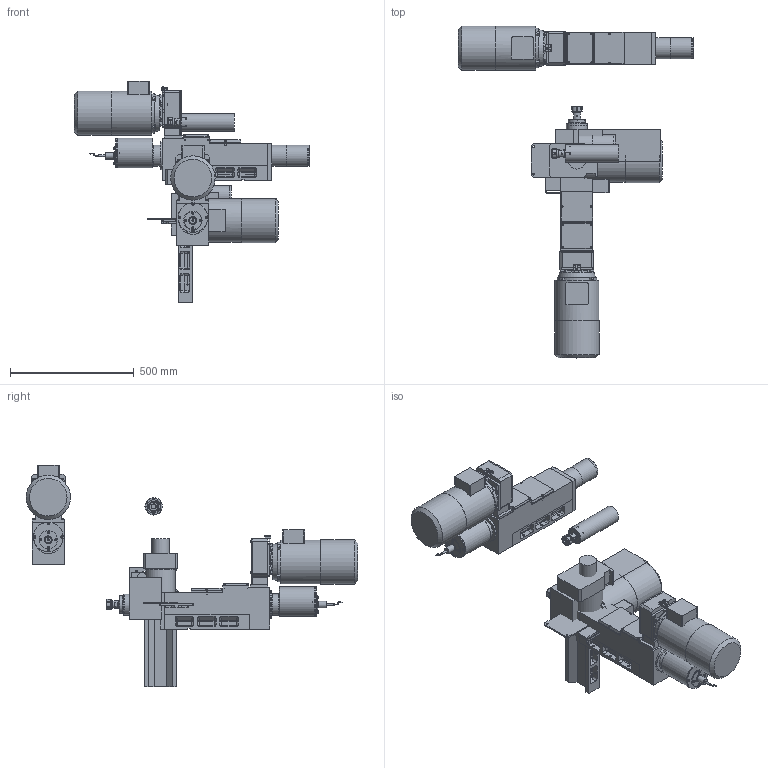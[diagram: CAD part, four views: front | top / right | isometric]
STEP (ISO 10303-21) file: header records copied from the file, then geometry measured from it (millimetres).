
FILE_DESCRIPTION( ( 'STEP AP203' ), '1' );
FILE_NAME( 'C:/Documents and Settings/Saverio/Desktop/disegni ironcad/unità serie 2/MC216 (ex MC220)/MC 216_A02_P.stp', '2014-03-25T10:09:23', ( ' ' ), ( ' ' ), 'XStep 1.0', ' ', ' ' );
FILE_SCHEMA( ( 'CONFIG_CONTROL_DESIGN' ) );
Length unit declared in the file: metre
Products named in the file (50): Assem1; Assem2; Assem3; Assem4; 1; 2; 3; 4; 5; 6; 7; 8; 9; 10; 11; 12; 13; 14; 15; 16; 17; 18; 19; 20; 21; 22; 23; 24; 25; 26; 27; 28; 29; 30; 31; 32; 33; 34; 35; 36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
Bounding box: 950 x 1338.73 x 894.21 mm (x, y, z)
Volume: 58516744.9 mm3; surface area: 4341296.1 mm2
Topology: 140 solids, 140 shells, 3383 faces, 7700 edges, 4697 vertices
Faces by surface type: plane 1800, cylinder 861, cone 487, bspline 126, sphere 60, torus 49
Full cylindrical faces by diameter (mm): 5 x72, 5.25 x12, 5.5 x33, 6.5 x18, 6.637 x15, 6.647 x12, 6.75 x16, 7 x3, 8 x3, 8.385 x3, 8.5 x48, 8.75 x18, 18 x12, 20 x3, 20.5 x3, 24 x3, 26 x3, 30 x9, 30.5 x3, 31.2 x3, 42 x3, 52 x3, 53 x3, 54 x6, 70 x10, 74 x6, 76 x3, 80 x8, 84.5 x4, 85 x4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
Entity records: 34100 total; most frequent: CARTESIAN_POINT 8581, DIRECTION 4863, ORIENTED_EDGE 4296, EDGE_CURVE 2148, AXIS2_PLACEMENT_3D 1829, EDGE_LOOP 1541, VERTEX_POINT 1484, FACE_OUTER_BOUND 1252
